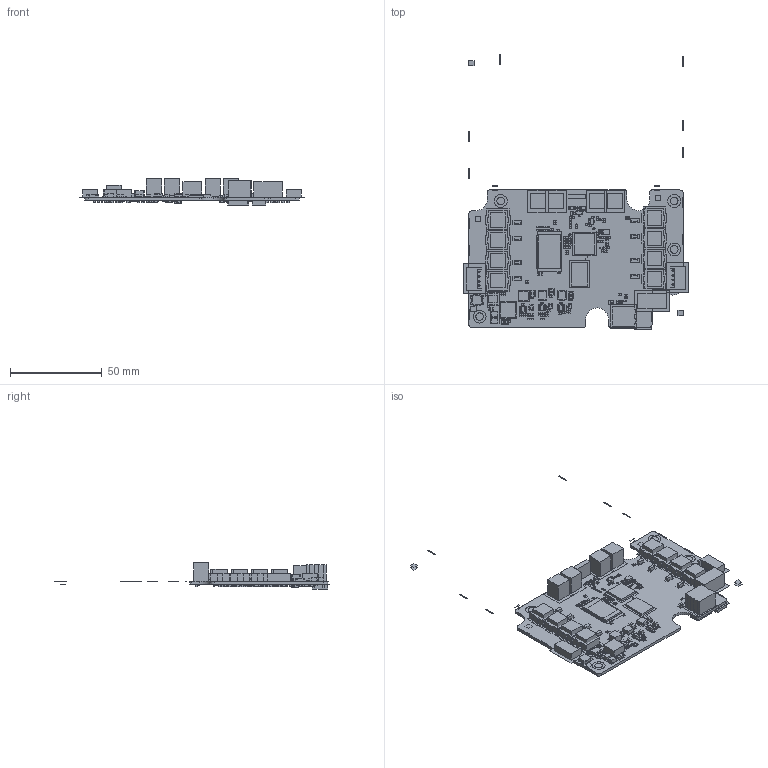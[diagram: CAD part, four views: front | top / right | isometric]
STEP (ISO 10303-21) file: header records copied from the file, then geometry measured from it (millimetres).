
FILE_DESCRIPTION(/* description */ ('PCB Design'),/* implementation_level */ '2;1');
FILE_NAME(/* name */ 'AI2MAX_AMP_A113X_V10C_211018-001',/* time_stamp */ '2021-10-21T11:22:56+09:00',/* author */ ('mmkim'),/* organization */ (''),/* preprocessor_version */ 'ST-DEVELOPER v15',/* originating_system */ 'allegro_16.6-2015S112',/* authorisation */ '');
FILE_SCHEMA (('AUTOMOTIVE_DESIGN'));
Length unit declared in the file: millimetre
Products named in the file (52): AI2MAX_AMP_A113X_V10C_211018-001; BOARD; COMPONENTS; SWPA8040S; SOP8_EP_TMI3343B; BLM21; CIS2012; HDR_4P; TSOP48_W20_MX30LF4G28AD-TI; SWPA8065S; COIL_BPPM00121190; MICRO_USB_10118192; C3216; QFN40_P0_5_W6_WA20-6829B; BGA153_S40FC004C181C; C3225; COIL_MLPS5035; COIL_LVS404018; COIL_SMPI0402BW; MISSING_HOLE_3; FD_ROUND; MISSING_HOLE; COIL_SPH10040; SOT23-6P_TMI3252S; SOT23_LRT_W2_7_WPM3401; SXB-EH-4P; 51318-0023L-001; TP1_0PI; MPTH165R394I177; R1005; A113X; BGA96_H5TC4G63CFR-RDC; SOT23-5_TMI6050; XTAL3225; SW_TS-1187; SOT23_LRT_DIO6809RST3; SOT23_LRT_MMBT3904; C1608; C1005; SOD-323_SZESD7371HT1G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
Assembly tree (630 placements, depth 3):
  AI2MAX_AMP_A113X_V10C_211018-001
    BOARD
    COMPONENTS
      SWPA8040S
      SOP8_EP_TMI3343B
      BLM21  x3
      CIS2012  x5
      HDR_4P
      TSOP48_W20_MX30LF4G28AD-TI
      SWPA8065S  x8
      COIL_BPPM00121190
      MICRO_USB_10118192
      C3216  x8
      QFN40_P0_5_W6_WA20-6829B  x4
      BGA153_S40FC004C181C
      C3225  x2
      COIL_MLPS5035
      COIL_LVS404018  x2
      COIL_SMPI0402BW
      MISSING_HOLE_3  x4
      FD_ROUND  x10
      MISSING_HOLE  x12
      COIL_SPH10040  x8
      SOT23-6P_TMI3252S  x4
      SOT23_LRT_W2_7_WPM3401
      SXB-EH-4P  x2
      51318-0023L-001
      TP1_0PI  x42
      MPTH165R394I177  x4
      R1005  x152
      A113X
      BGA96_H5TC4G63CFR-RDC
      SOT23-5_TMI6050  x2
      XTAL3225
      SW_TS-1187
      SOT23_LRT_DIO6809RST3
      SOT23_LRT_MMBT3904  x5
      C1608  x88
      C1005  x92
      SOD-323_SZESD7371HT1G  x4
      LED1608
      C2012  x14
      R2012  x17
      R1608  x16
      ECAP_8PI_H10  x4
      TP0_8PI  x35
      TEST_R
      R0402  x10
      C0402  x43
      TP12
      C0603  x8
      FH41-15S-0_5SH
Bounding box: 123 x 149.8 x 14.3 mm (x, y, z)
Surface area: 47409.7 mm2 (no closed solid volume)
Topology: 0 solids, 1099 shells, 7024 faces, 15595 edges, 9652 vertices
Faces by surface type: plane 6796, cylinder 228
Entity records: 29894 total; most frequent: ORIENTED_EDGE 3954, DIRECTION 3812, CARTESIAN_POINT 2357, AXIS2_PLACEMENT_3D 2229, EDGE_CURVE 2086, VECTOR 1958, LINE 1958, VERTEX_POINT 1536
